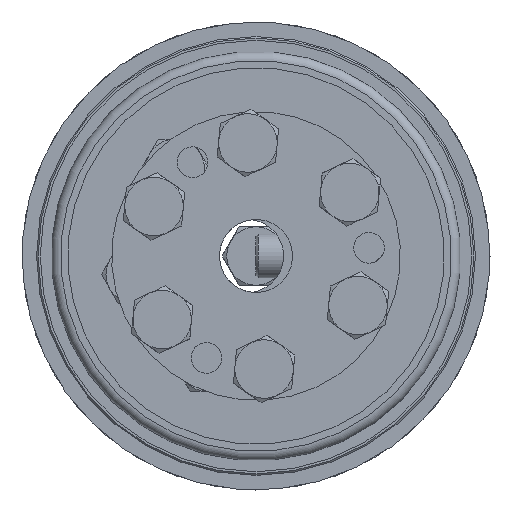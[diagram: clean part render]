
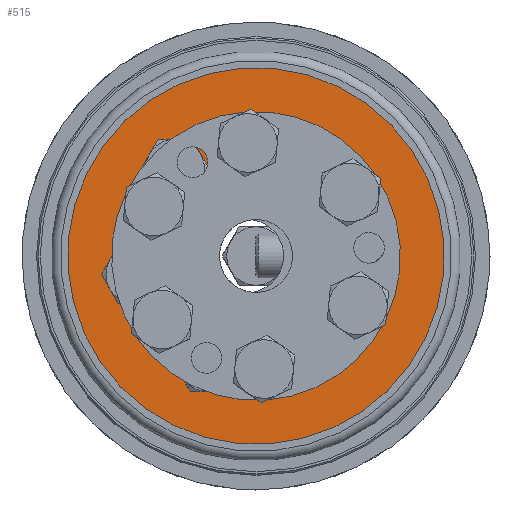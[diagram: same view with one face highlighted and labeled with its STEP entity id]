
A CAD part, left-side view. The second image highlights one B-rep face of the part: STEP entity #515.
In plain terms, the highlighted planar face has unit normal (-1, 0, 0).
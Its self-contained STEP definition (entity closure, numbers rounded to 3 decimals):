
#515 = ADVANCED_FACE( 'NONE', ( #878, #879, #880, #881, #882, #883, #884, #885 ), #886, .F. );
#878 = FACE_OUTER_BOUND( '', #1378, .T. );
#879 = FACE_BOUND( '', #1379, .T. );
#880 = FACE_BOUND( '', #1380, .T. );
#881 = FACE_BOUND( '', #1381, .T. );
#882 = FACE_BOUND( '', #1382, .T. );
#883 = FACE_BOUND( '', #1383, .T. );
#884 = FACE_BOUND( '', #1384, .T. );
#885 = FACE_BOUND( '', #1385, .T. );
#886 = PLANE( '', #1386 );
#1378 = EDGE_LOOP( '', ( #1993 ) );
#1379 = EDGE_LOOP( '', ( #1994 ) );
#1380 = EDGE_LOOP( '', ( #1995 ) );
#1381 = EDGE_LOOP( '', ( #1996 ) );
#1382 = EDGE_LOOP( '', ( #1997 ) );
#1383 = EDGE_LOOP( '', ( #1998 ) );
#1384 = EDGE_LOOP( '', ( #1999 ) );
#1385 = EDGE_LOOP( '', ( #2000 ) );
#1386 = AXIS2_PLACEMENT_3D( '', #2001, #2002, #2003 );
#1993 = ORIENTED_EDGE( '', *, *, #2820, .T. );
#1994 = ORIENTED_EDGE( '', *, *, #2821, .F. );
#1995 = ORIENTED_EDGE( '', *, *, #2810, .F. );
#1996 = ORIENTED_EDGE( '', *, *, #2822, .F. );
#1997 = ORIENTED_EDGE( '', *, *, #2823, .F. );
#1998 = ORIENTED_EDGE( '', *, *, #2824, .F. );
#1999 = ORIENTED_EDGE( '', *, *, #2825, .F. );
#2000 = ORIENTED_EDGE( '', *, *, #2826, .F. );
#2001 = CARTESIAN_POINT( '', ( 0., 12.2, 0. ) );
#2002 = DIRECTION( '', ( 1., 0., 0. ) );
#2003 = DIRECTION( '', ( 0., 1., 0. ) );
#2810 = EDGE_CURVE( 'NONE', #3102, #3102, #3103, .T. );
#2820 = EDGE_CURVE( 'NONE', #3122, #3122, #3123, .T. );
#2821 = EDGE_CURVE( 'NONE', #3124, #3124, #3125, .T. );
#2822 = EDGE_CURVE( 'NONE', #3126, #3126, #3127, .T. );
#2823 = EDGE_CURVE( 'NONE', #3128, #3128, #3129, .T. );
#2824 = EDGE_CURVE( 'NONE', #3130, #3130, #3131, .T. );
#2825 = EDGE_CURVE( 'NONE', #3132, #3132, #3133, .T. );
#2826 = EDGE_CURVE( 'NONE', #3134, #3134, #3135, .T. );
#3102 = VERTEX_POINT( '', #3516 );
#3103 = CIRCLE( '', #3517, 2.1 );
#3122 = VERTEX_POINT( '', #3536 );
#3123 = CIRCLE( '', #3537, 25.75 );
#3124 = VERTEX_POINT( '', #3538 );
#3125 = CIRCLE( '', #3539, 2.1 );
#3126 = VERTEX_POINT( '', #3540 );
#3127 = CIRCLE( '', #3541, 2.1 );
#3128 = VERTEX_POINT( '', #3542 );
#3129 = CIRCLE( '', #3543, 2.1 );
#3130 = VERTEX_POINT( '', #3544 );
#3131 = CIRCLE( '', #3545, 12.2 );
#3132 = VERTEX_POINT( '', #3546 );
#3133 = CIRCLE( '', #3547, 2.1 );
#3134 = VERTEX_POINT( '', #3548 );
#3135 = CIRCLE( '', #3549, 2.1 );
#3516 = CARTESIAN_POINT( '', ( 0., -7.75, -11.323 ) );
#3517 = AXIS2_PLACEMENT_3D( '', #4445, #4446, #4447 );
#3536 = CARTESIAN_POINT( '', ( 0., 0., 25.75 ) );
#3537 = AXIS2_PLACEMENT_3D( '', #4475, #4476, #4477 );
#3538 = CARTESIAN_POINT( '', ( 0., -7.75, 15.523 ) );
#3539 = AXIS2_PLACEMENT_3D( '', #4478, #4479, #4480 );
#3540 = CARTESIAN_POINT( '', ( 0., 7.75, -11.323 ) );
#3541 = AXIS2_PLACEMENT_3D( '', #4481, #4482, #4483 );
#3542 = CARTESIAN_POINT( '', ( 0., 15.5, 2.1 ) );
#3543 = AXIS2_PLACEMENT_3D( '', #4484, #4485, #4486 );
#3544 = CARTESIAN_POINT( '', ( 0., 0., 12.2 ) );
#3545 = AXIS2_PLACEMENT_3D( '', #4487, #4488, #4489 );
#3546 = CARTESIAN_POINT( '', ( 0., -15.5, 2.1 ) );
#3547 = AXIS2_PLACEMENT_3D( '', #4490, #4491, #4492 );
#3548 = CARTESIAN_POINT( '', ( 0., 7.75, 15.523 ) );
#3549 = AXIS2_PLACEMENT_3D( '', #4493, #4494, #4495 );
#4445 = CARTESIAN_POINT( '', ( 0., -7.75, -13.423 ) );
#4446 = DIRECTION( '', ( -1., 0., 0. ) );
#4447 = DIRECTION( '', ( 0., 0., 1. ) );
#4475 = CARTESIAN_POINT( '', ( 0., 0., 0. ) );
#4476 = DIRECTION( '', ( -1., 0., 0. ) );
#4477 = DIRECTION( '', ( 0., 0., 1. ) );
#4478 = CARTESIAN_POINT( '', ( 0., -7.75, 13.423 ) );
#4479 = DIRECTION( '', ( -1., 0., 0. ) );
#4480 = DIRECTION( '', ( 0., 0., 1. ) );
#4481 = CARTESIAN_POINT( '', ( 0., 7.75, -13.423 ) );
#4482 = DIRECTION( '', ( -1., 0., 0. ) );
#4483 = DIRECTION( '', ( 0., 0., 1. ) );
#4484 = CARTESIAN_POINT( '', ( 0., 15.5, 0. ) );
#4485 = DIRECTION( '', ( -1., 0., 0. ) );
#4486 = DIRECTION( '', ( 0., 0., 1. ) );
#4487 = CARTESIAN_POINT( '', ( 0., 0., 0. ) );
#4488 = DIRECTION( '', ( -1., 0., 0. ) );
#4489 = DIRECTION( '', ( 0., 0., 1. ) );
#4490 = CARTESIAN_POINT( '', ( 0., -15.5, 0. ) );
#4491 = DIRECTION( '', ( -1., 0., 0. ) );
#4492 = DIRECTION( '', ( 0., 0., 1. ) );
#4493 = CARTESIAN_POINT( '', ( 0., 7.75, 13.423 ) );
#4494 = DIRECTION( '', ( -1., 0., 0. ) );
#4495 = DIRECTION( '', ( 0., 0., 1. ) );
